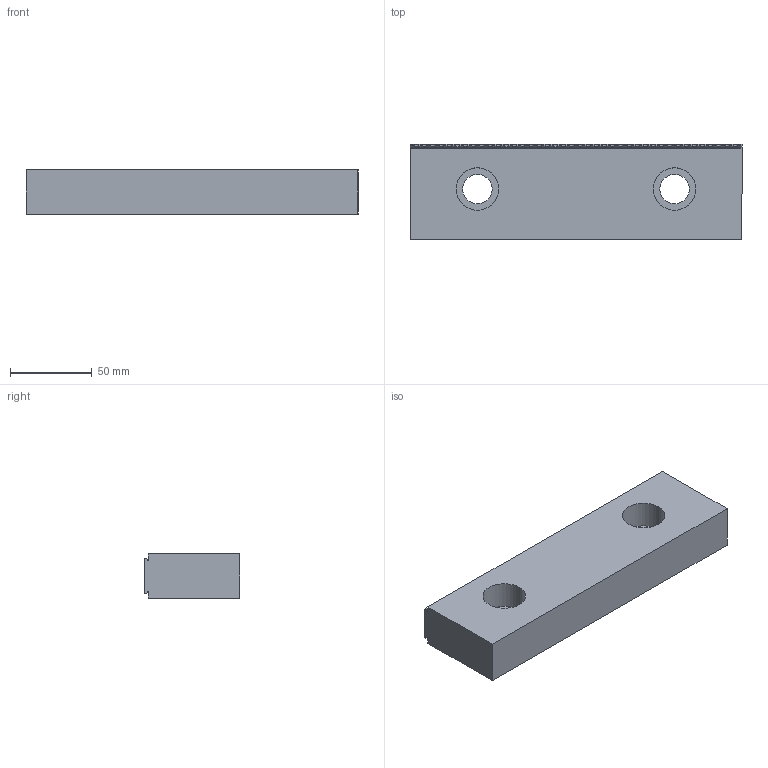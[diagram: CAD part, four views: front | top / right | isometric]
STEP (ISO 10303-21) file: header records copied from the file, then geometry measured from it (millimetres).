
FILE_DESCRIPTION (( 'STEP AP214' ), '1' );
FILE_NAME ('HKMVJ-8HS [05-0239 ref].step', '2023-05-02T20:43:22', ( '' ), ( '' ), 'SwSTEP 2.0', 'SolidWorks 2022', '' );
FILE_SCHEMA (( 'AUTOMOTIVE_DESIGN' ));
Length unit declared in the file: millimetre
Products named in the file (1): HKMVJ-8HS [05-0239 ref]
Bounding box: 203.2 x 58.38 x 27.3 mm (x, y, z)
Volume: 297007.9 mm3; surface area: 41341.5 mm2
Topology: 1 solids, 1 shells, 184 faces, 540 edges, 360 vertices
Faces by surface type: plane 94, cylinder 90
Entity records: 7116 total; most frequent: CARTESIAN_POINT 1325, ORIENTED_EDGE 1080, DIRECTION 930, EDGE_CURVE 540, LINE 360, VERTEX_POINT 360, VECTOR 360, AXIS2_PLACEMENT_3D 285
